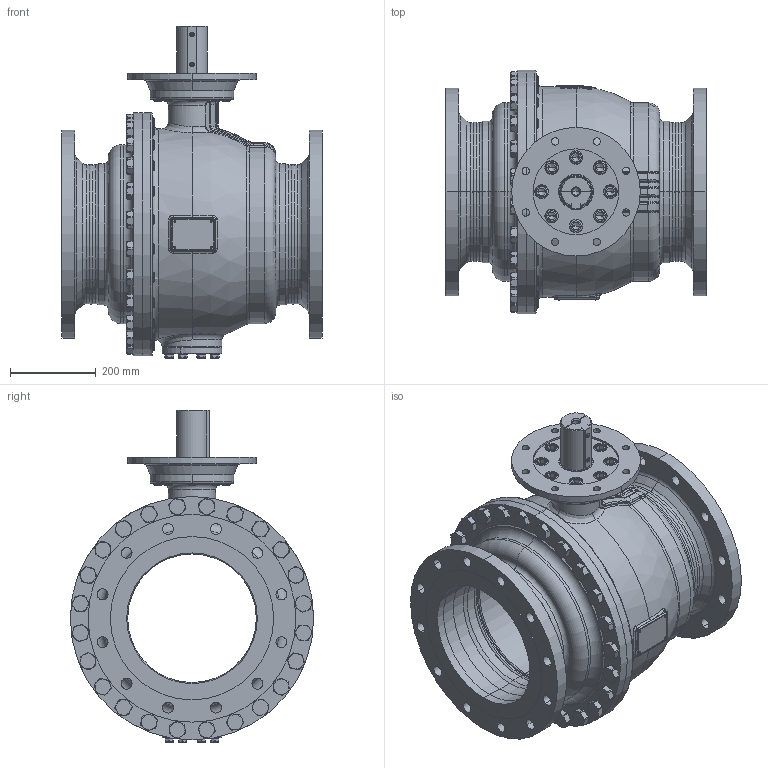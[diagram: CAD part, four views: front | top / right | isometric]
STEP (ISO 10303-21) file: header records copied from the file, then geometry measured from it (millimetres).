
FILE_DESCRIPTION((''),'2;1');
FILE_NAME('KHI-F_300-CL150-F25-P_SW0001','2026-02-05T15:14:41',('fischerkl'),('KLINGER'),'CREO PARAMETRIC BY PTC INC, 2023014','CREO PARAMETRIC BY PTC INC, 2023014','');
FILE_SCHEMA(('CONFIG_CONTROL_DESIGN'));
Products named in the file (1): KHI-F_300-CL150-F25-P_SW0001
Bounding box: 610 x 568 x 774.8 mm (x, y, z)
Volume: 32302816.3 mm3; surface area: 4593963 mm2
Topology: 1 solids, 4 shells, 3407 faces, 8630 edges, 5396 vertices
Faces by surface type: plane 1749, cylinder 769, cone 448, torus 301, bspline 111, sphere 29
Entity records: 145054 total; most frequent: CARTESIAN_POINT 64126, ORIENTED_EDGE 17208, DIRECTION 16577, EDGE_CURVE 8604, AXIS2_PLACEMENT_3D 6321, VERTEX_POINT 5396, VECTOR 3935, LINE 3935
